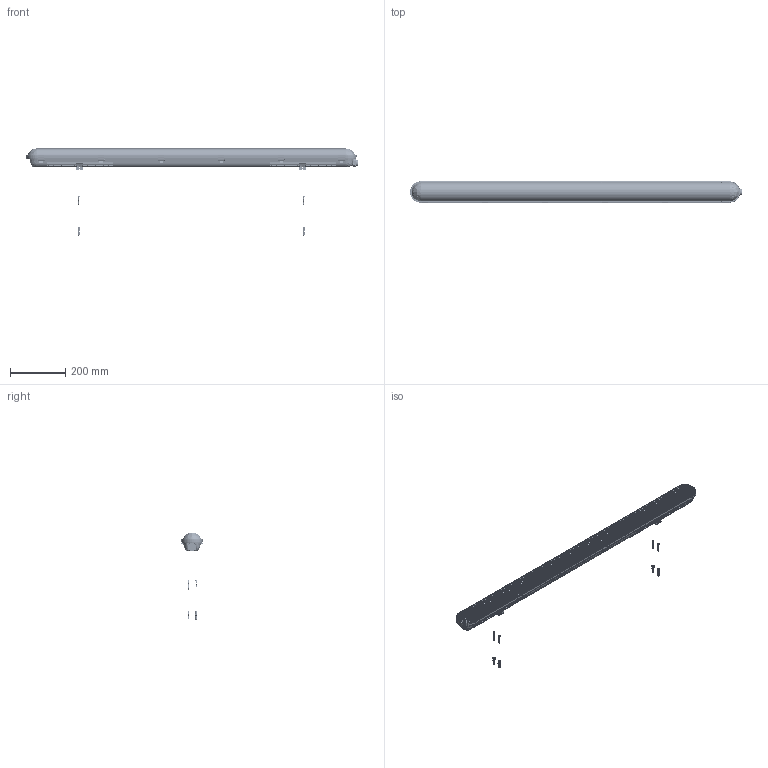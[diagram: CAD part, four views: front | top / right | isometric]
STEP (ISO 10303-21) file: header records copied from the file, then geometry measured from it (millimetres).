
FILE_DESCRIPTION(/* description */ (''),/* implementation_level */ '2;1');
FILE_NAME(/* name */ 'LG07Q-12',/* time_stamp */ '2025-10-28T07:42:03+08:00',/* author */ (''),/* organization */ (''),/* preprocessor_version */ 'ST-DEVELOPER v9',/* originating_system */ 'EDS PLM SOLUTIONS - UNIGRAPHICS NX 2.0',/* authorisation */ '');
FILE_SCHEMA (('AUTOMOTIVE_DESIGN { 1 0 10303 214 0 1 1 1 }'));
Products named in the file (1): Admi576Atdpl
Bounding box: 1204.32 x 79.87 x 315.61 mm (x, y, z)
Volume: 615951.4 mm3; surface area: 1121212.3 mm2
Topology: 46 solids, 47 shells, 7070 faces, 19315 edges, 12499 vertices
Faces by surface type: plane 3621, cylinder 2685, bspline 389, torus 191, cone 126, sphere 32, extrusion 22, revolution 4
Full cylindrical faces by diameter (mm): 1.5 x2, 1.6 x60, 2.5 x4, 3 x4, 3.2 x4, 3.4 x18, 3.5 x6, 4 x12, 4.2 x4, 4.5 x4, 4.593 x2, 5 x2, 5.249 x2, 6 x14, 6.3 x2, 7 x2, 8 x2, 10.4 x2, 12.2 x1, 12.5 x2, 15.5 x2, 15.8 x2, 16 x2, 16.499 x1, 17.499 x5, 18.5 x14, 20 x2, 20.499 x5, 20.8 x2, 21 x6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
Entity records: 321826 total; most frequent: CARTESIAN_POINT 99780, ORIENTED_EDGE 37586, DIRECTION 35352, EDGE_CURVE 18793, VERTEX_POINT 12302, AXIS2_PLACEMENT_3D 12089, VECTOR 11170, LINE 11148
